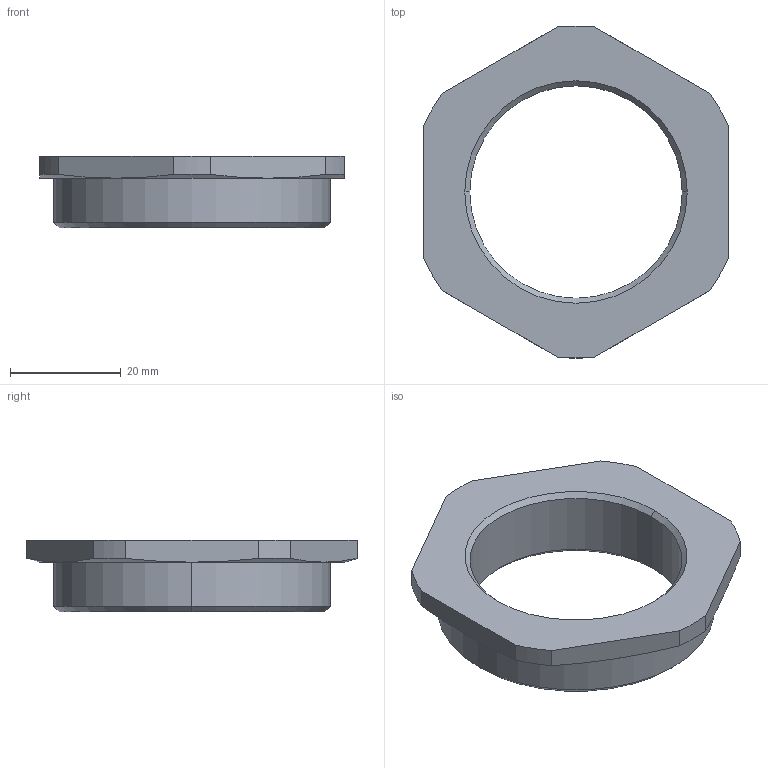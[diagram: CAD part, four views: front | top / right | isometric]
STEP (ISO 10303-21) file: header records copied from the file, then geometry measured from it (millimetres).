
FILE_DESCRIPTION (( 'STEP AP203' ), '1' );
FILE_NAME ('M50M40-6-OM.STEP', '2005-10-05T12:59:18', ( ' ' ), ( '' ), 'SwSTEP 2.0', 'SolidWorks 2005143', '' );
FILE_SCHEMA (( 'CONFIG_CONTROL_DESIGN' ));
Length unit declared in the file: millimetre
Products named in the file (1): M50M40-6-OM
Bounding box: 55 x 59.96 x 13 mm (x, y, z)
Volume: 12744.1 mm3; surface area: 6309 mm2
Topology: 1 solids, 1 shells, 68 faces, 174 edges, 112 vertices
Faces by surface type: plane 46, cone 12, cylinder 10
Entity records: 2151 total; most frequent: CARTESIAN_POINT 415, ORIENTED_EDGE 348, DIRECTION 332, EDGE_CURVE 174, VECTOR 130, LINE 130, VERTEX_POINT 112, AXIS2_PLACEMENT_3D 101
